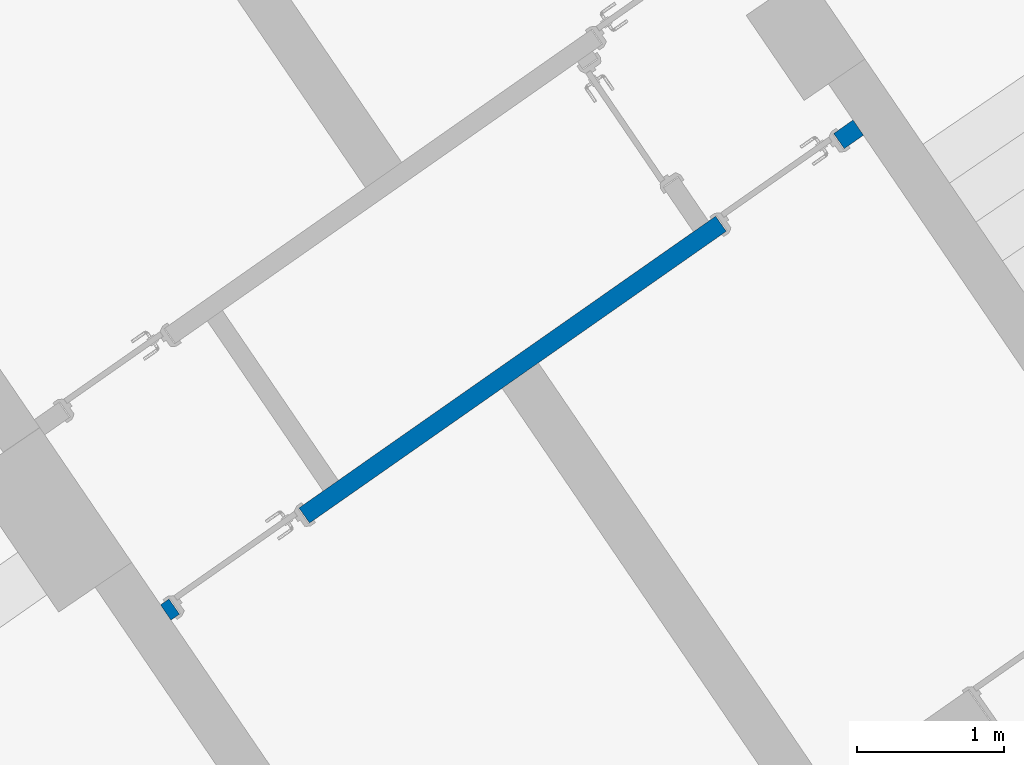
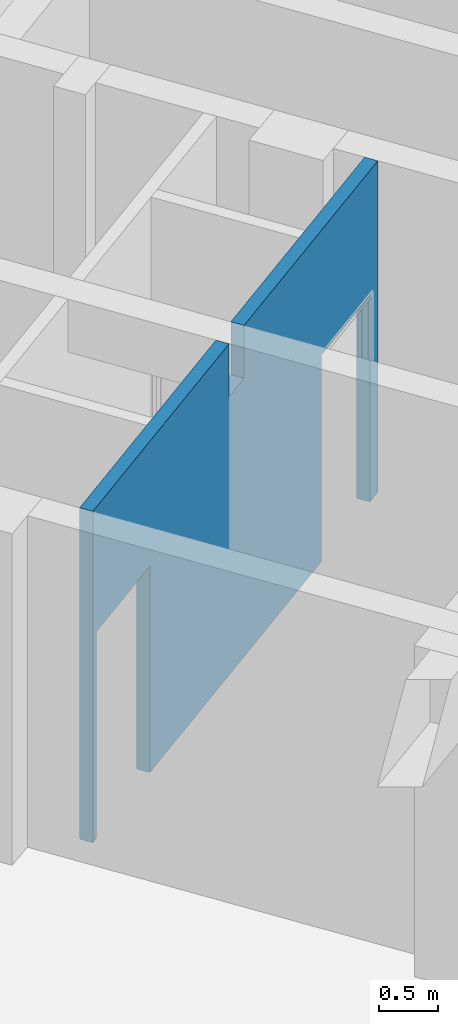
# One storey, part 100 of 112: 1 wall, 2 openings.
"""IFC2X3 building model written with IfcOpenShell, lengths in millimetres."""

import ifcopenshell
import ifcopenshell.guid

model = None  # the IFC model being written
_history = None  # IfcOwnerHistory: only IFC2X3 demands one
_inside = {}  # id of a spatial element -> (the spatial element, [elements in it])
_under = {}  # id of a project, library or spatial element -> (it, [spatial elements below it])
_declared = {}  # id of a project -> (the project, [libraries it declares])
_typed = {}  # id of a type object -> (the type object, [elements of that type])
_made_of = {}  # id of a material, layer set ... -> (it, [elements and type objects made of it])


def new_model(schema):
    """Start an empty IFC model of exactly this schema.

    Asked for "IFC4X3", IfcOpenShell would pick the latest addendum, in which some entities
    have other attributes; the version numbers below select the first issue.
    IFC2X3 requires an IfcOwnerHistory on every rooted entity: one is made here for all.
    """
    global model, _history
    if schema == "IFC4X3":
        model = ifcopenshell.file(schema_version=(4, 3, 0, 0))
    else:
        model = ifcopenshell.file(schema=schema)
    _inside.clear()
    _under.clear()
    _declared.clear()
    _typed.clear()
    _made_of.clear()
    _history = None
    if model.schema == "IFC2X3":
        org = make("IfcOrganization", Name="unknown")
        user = make(
            "IfcPersonAndOrganization",
            ThePerson=make("IfcPerson", FamilyName="unknown"),
            TheOrganization=org,
        )
        app = make(
            "IfcApplication",
            ApplicationDeveloper=org,
            Version="unknown",
            ApplicationFullName="unknown",
            ApplicationIdentifier="unknown",
        )
        _history = make(
            "IfcOwnerHistory",
            OwningUser=user,
            OwningApplication=app,
            ChangeAction="ADDED",
            CreationDate=0,
        )
    return model


def make(cls, **values):
    """One entity of the class cls with the attributes given. An attribute that is None is left unset."""
    return model.create_entity(
        cls, **{name: value for name, value in values.items() if value is not None}
    )


def entity(cls, *values):
    """Any entity or typed value of the class cls, its attributes in the order of the schema. None: left unset."""
    e = model.create_entity(cls)
    for i, value in enumerate(values):
        if value is not None:
            e[i] = value
    return e


def rooted(cls, **values):
    """An entity with a GlobalId (a new one), such as an element, a storey or a relation."""
    return make(cls, GlobalId=ifcopenshell.guid.new(), OwnerHistory=_history, **values)


def si_unit(unit_type, name, prefix=None):
    """IfcSIUnit, for example si_unit("LENGTHUNIT", "METRE", prefix="MILLI")."""
    return make("IfcSIUnit", UnitType=unit_type, Prefix=prefix, Name=name)


def converted_unit(unit_type, name, factor, base, dimensions=None, offset=None):
    """IfcConversionBasedUnit, such as the inch: factor (a typed value) times the base unit."""
    return make(
        "IfcConversionBasedUnit"
        if offset is None
        else "IfcConversionBasedUnitWithOffset",
        ConversionOffset=offset,
        Dimensions=None
        if dimensions is None
        else entity("IfcDimensionalExponents", *dimensions),
        UnitType=unit_type,
        Name=name,
        ConversionFactor=make(
            "IfcMeasureWithUnit", ValueComponent=factor, UnitComponent=base
        ),
    )


def derived_unit(unit_type, elements):
    """IfcDerivedUnit: a product of units, each with its exponent."""
    return make(
        "IfcDerivedUnit",
        Elements=[
            make("IfcDerivedUnitElement", Unit=unit, Exponent=power)
            for unit, power in elements
        ],
        UnitType=unit_type,
    )


def assignment(units):
    """IfcUnitAssignment: the units of a project."""
    return None if units is None else make("IfcUnitAssignment", Units=units)


def point(xyz):
    """IfcCartesianPoint."""
    return None if xyz is None else make("IfcCartesianPoint", Coordinates=xyz)


def direction(xyz):
    """IfcDirection."""
    return None if xyz is None else make("IfcDirection", DirectionRatios=xyz)


def frame(location, z_axis=None, x_axis=None):
    """IfcAxis2Placement3D, a coordinate frame: its origin and axes. An axis left out is left unset."""
    return make(
        "IfcAxis2Placement3D",
        Location=point(location),
        Axis=direction(z_axis),
        RefDirection=direction(x_axis),
    )


def frame_2d(location, x_axis=None):
    """IfcAxis2Placement2D, a coordinate frame in the plane: its origin and x axis."""
    return make(
        "IfcAxis2Placement2D", Location=point(location), RefDirection=direction(x_axis)
    )


def origin():
    """The frame at (0, 0, 0) with its axes left unset."""
    return frame((0.0, 0.0, 0.0))


def place(relative_to, where):
    """IfcLocalPlacement: puts the frame where relative to a parent placement (None: the world)."""
    return make(
        "IfcLocalPlacement", PlacementRelTo=relative_to, RelativePlacement=where
    )


def context(
    kind, dimensions, precision=None, world=None, true_north=None, identifier=None
):
    """IfcGeometricRepresentationContext, for example the 3D "Model" context."""
    return make(
        "IfcGeometricRepresentationContext",
        ContextIdentifier=identifier,
        ContextType=kind,
        CoordinateSpaceDimension=dimensions,
        Precision=precision,
        WorldCoordinateSystem=world,
        TrueNorth=true_north,
    )


def subcontext(parent, identifier, kind, view, scale=None):
    """IfcGeometricRepresentationSubContext, for example "Body" below "Model"."""
    return make(
        "IfcGeometricRepresentationSubContext",
        ContextIdentifier=identifier,
        ContextType=kind,
        ParentContext=parent,
        TargetScale=scale,
        TargetView=view,
    )


def project(units=None, contexts=None):
    """IfcProject with its units and contexts."""
    return rooted(
        "IfcProject",
        Name="project",
        RepresentationContexts=contexts,
        UnitsInContext=assignment(units),
    )


def spatial(cls, under=None, at=None, **own):
    """A site, building, storey or space (cls), placed at a placement, below another one or the project."""
    s = rooted(cls, ObjectPlacement=at, **own)
    if under is not None:
        _under.setdefault(under.id(), (under, []))[1].append(s)
    return s


def profile(cls, at=None, kind="AREA", **sizes):
    """A parametric profile (cls). Its sizes go by their IFC names, for example OverallWidth=200.0."""
    return make(cls, ProfileType=kind, Position=at, **sizes)


def rectangle(**sizes):
    """IfcRectangleProfileDef."""
    return profile("IfcRectangleProfileDef", **sizes)


def extrude(swept, where, along, depth):
    """IfcExtrudedAreaSolid: the profile swept, set in the frame where, extruded along a direction by depth."""
    return make(
        "IfcExtrudedAreaSolid",
        SweptArea=swept,
        Position=where,
        ExtrudedDirection=direction(along),
        Depth=depth,
    )


def faces_of(points, faces, orient=None, outer=None):
    """IfcFace entities. A face is a list of loops; a loop is a list of indices into points, from 0.

    orient and outer hold one flag for each loop. By default every Orientation is true, the
    first loop of a face is its IfcFaceOuterBound and the others are IfcFaceBound.
    """
    made = []
    for i, loops in enumerate(faces):
        bounds = []
        for j, loop in enumerate(loops):
            is_outer = j == 0 if outer is None else outer[i][j]
            bounds.append(
                make(
                    "IfcFaceOuterBound" if is_outer else "IfcFaceBound",
                    Bound=make("IfcPolyLoop", Polygon=[points[k] for k in loop]),
                    Orientation=True if orient is None else orient[i][j],
                )
            )
        made.append(make("IfcFace", Bounds=bounds))
    return made


def faceted_brep(points, faces, orient=None, outer=None, voids=None):
    """IfcFacetedBrep: a solid bounded by flat faces; with voids (closed shells), ...WithVoids."""
    shared = [point(p) for p in points]
    hull = make("IfcClosedShell", CfsFaces=faces_of(shared, faces, orient, outer))
    if voids is None:
        return make("IfcFacetedBrep", Outer=hull)
    return make(
        "IfcFacetedBrepWithVoids",
        Outer=hull,
        Voids=[
            make(cls, CfsFaces=faces_of(shared, fs, o, b)) for cls, fs, o, b in voids
        ],
    )


def shape(context_of_items, identifier, shape_type, items):
    """IfcShapeRepresentation: the items that make up one representation, for example the "Body"."""
    return make(
        "IfcShapeRepresentation",
        ContextOfItems=context_of_items,
        RepresentationIdentifier=identifier,
        RepresentationType=shape_type,
        Items=items,
    )


def material(Name=None, Category=None):
    """IfcMaterial."""
    return make("IfcMaterial", Name=Name, Category=Category)


def layer(
    of_material, thickness, ventilated=None, Name=None, Category=None, Priority=None
):
    """IfcMaterialLayer: one layer of a wall or slab, of a material (None: an air gap)."""
    return make(
        "IfcMaterialLayer",
        Material=of_material,
        LayerThickness=thickness,
        IsVentilated=ventilated,
        Name=Name,
        Category=Category,
        Priority=Priority,
    )


def layer_set(layers, Name=None):
    """IfcMaterialLayerSet."""
    return make("IfcMaterialLayerSet", MaterialLayers=layers, LayerSetName=Name)


def made_of(thing, what):
    """Note that an element or type object is made of a material, layer set ...; save() writes the relation."""
    if what is not None:
        _made_of.setdefault(what.id(), (what, []))[1].append(thing)
    return thing


def type_object(cls, material=None, **own):
    """A type object (cls), such as IfcWallType, which elements share."""
    return made_of(rooted(cls, **own), material)


def element(
    cls,
    number,
    at=None,
    inside=None,
    cuts=None,
    type_object=None,
    material=None,
    context=None,
    identifier="Body",
    shape_type=None,
    held_by="IfcProductDefinitionShape",
    body=None,
    shapes=None,
    **own,
):
    """One element of the class cls, such as IfcWall. Its Tag is "e" and its number.

    at: its placement. inside: the storey or other place that contains it. cuts: it is an
    opening in that element (IfcRelVoidsElement). A single representation is given by context,
    identifier, shape_type and body (its items); several are given by shapes. held_by: the class
    of the entity that holds the representations. save() writes the other relations.
    """
    e = rooted(cls, Tag="e%d" % number, ObjectPlacement=at, **own)
    if body is not None:
        shapes = [shape(context, identifier, shape_type, body)]
    if shapes is not None:
        e.Representation = make(held_by, Representations=shapes)
    if inside is not None:
        _inside.setdefault(inside.id(), (inside, []))[1].append(e)
    if cuts is not None:
        rooted(
            "IfcRelVoidsElement", RelatingBuildingElement=cuts, RelatedOpeningElement=e
        )
    if type_object is not None:
        _typed.setdefault(type_object.id(), (type_object, []))[1].append(e)
    return made_of(e, material)


def aggregate(whole, parts):
    """IfcRelAggregates: a whole, such as a stair, and the parts it consists of."""
    return rooted("IfcRelAggregates", RelatingObject=whole, RelatedObjects=parts)


def save(model, path):
    """Write the relations noted so far, then the file.

    IfcRelAggregates (storeys below a building ...), IfcRelContainedInSpatialStructure (elements
    in a storey), IfcRelDefinesByType, IfcRelAssociatesMaterial and IfcRelDeclares: one each for
    every whole, place, type object, material and project.
    """
    for whole, parts in _under.values():
        aggregate(whole, parts)
    for where, things in _inside.values():
        rooted(
            "IfcRelContainedInSpatialStructure",
            RelatedElements=things,
            RelatingStructure=where,
        )
    for kind, things in _typed.values():
        rooted("IfcRelDefinesByType", RelatedObjects=things, RelatingType=kind)
    for what, things in _made_of.values():
        rooted("IfcRelAssociatesMaterial", RelatedObjects=things, RelatingMaterial=what)
    for by, libraries in _declared.values():
        rooted("IfcRelDeclares", RelatingContext=by, RelatedDefinitions=libraries)
    model.write(path)


model = new_model("IFC2X3")

# Units and contexts
model_context = context("Model", 3, precision=0.01, world=origin(), true_north=direction((6.123031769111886e-17, 1.0)))
body_context = subcontext(model_context, "Body", "Model", "MODEL_VIEW")
ifc_project = project(units=[si_unit("LENGTHUNIT", "METRE", prefix="MILLI"), si_unit("AREAUNIT", "SQUARE_METRE"), si_unit("VOLUMEUNIT", "CUBIC_METRE"), converted_unit("PLANEANGLEUNIT", "DEGREE", entity("IfcRatioMeasure", 0.017453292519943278), si_unit("PLANEANGLEUNIT", "RADIAN"), dimensions=[0, 0, 0, 0, 0, 0, 0]), si_unit("MASSUNIT", "GRAM", prefix="KILO"), derived_unit("MASSDENSITYUNIT", [(si_unit("MASSUNIT", "GRAM", prefix="KILO"), 1), (si_unit("LENGTHUNIT", "METRE"), -3)]), derived_unit("MOMENTOFINERTIAUNIT", [(si_unit("LENGTHUNIT", "METRE"), 4)]), si_unit("TIMEUNIT", "SECOND"), si_unit("FREQUENCYUNIT", "HERTZ"), si_unit("THERMODYNAMICTEMPERATUREUNIT", "DEGREE_CELSIUS"), derived_unit("THERMALTRANSMITTANCEUNIT", [(si_unit("MASSUNIT", "GRAM", prefix="KILO"), 1), (si_unit("THERMODYNAMICTEMPERATUREUNIT", "KELVIN"), -1), (si_unit("TIMEUNIT", "SECOND"), -3)]), derived_unit("THERMALCONDUCTANCEUNIT", [(si_unit("MASSUNIT", "GRAM", prefix="KILO"), 1), (si_unit("LENGTHUNIT", "METRE"), 1), (si_unit("THERMODYNAMICTEMPERATUREUNIT", "KELVIN"), -1), (si_unit("TIMEUNIT", "SECOND"), -3)]), derived_unit("VOLUMETRICFLOWRATEUNIT", [(si_unit("LENGTHUNIT", "METRE"), 3), (si_unit("TIMEUNIT", "SECOND"), -1)]), derived_unit("MASSFLOWRATEUNIT", [(si_unit("MASSUNIT", "GRAM", prefix="KILO"), 1), (si_unit("TIMEUNIT", "SECOND"), -1)]), derived_unit("ROTATIONALFREQUENCYUNIT", [(si_unit("TIMEUNIT", "SECOND"), -1)]), si_unit("ELECTRICCURRENTUNIT", "AMPERE"), si_unit("ELECTRICVOLTAGEUNIT", "VOLT"), si_unit("POWERUNIT", "WATT"), converted_unit("FORCEUNIT", "KIP", entity("IfcRatioMeasure", 2.088543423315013e-05), si_unit("FORCEUNIT", "NEWTON"), dimensions=[1, 1, -2, 0, 0, 0, 0]), si_unit("ILLUMINANCEUNIT", "LUX"), si_unit("LUMINOUSFLUXUNIT", "LUMEN"), si_unit("LUMINOUSINTENSITYUNIT", "CANDELA"), derived_unit("USERDEFINED", [(si_unit("MASSUNIT", "GRAM", prefix="KILO"), -1), (si_unit("LENGTHUNIT", "METRE"), -2), (si_unit("TIMEUNIT", "SECOND"), 3), (si_unit("LUMINOUSFLUXUNIT", "LUMEN"), 1)]), derived_unit("USERDEFINED", [(si_unit("MASSUNIT", "GRAM", prefix="KILO"), 1), (si_unit("LENGTHUNIT", "METRE"), 3), (si_unit("TIMEUNIT", "SECOND"), -3), (si_unit("ELECTRICCURRENTUNIT", "AMPERE"), -2)]), derived_unit("USERDEFINED", [(si_unit("LENGTHUNIT", "METRE"), 2), (si_unit("TIMEUNIT", "SECOND"), -2)]), derived_unit("SOUNDPOWERUNIT", [(si_unit("MASSUNIT", "GRAM", prefix="KILO"), 1), (si_unit("LENGTHUNIT", "METRE"), 2), (si_unit("TIMEUNIT", "SECOND"), -3)]), derived_unit("SOUNDPRESSUREUNIT", [(si_unit("MASSUNIT", "GRAM", prefix="KILO"), 1), (si_unit("LENGTHUNIT", "METRE"), -1), (si_unit("TIMEUNIT", "SECOND"), -2)]), derived_unit("LINEARVELOCITYUNIT", [(si_unit("LENGTHUNIT", "METRE"), 1), (si_unit("TIMEUNIT", "SECOND"), -1)]), si_unit("PRESSUREUNIT", "PASCAL"), derived_unit("USERDEFINED", [(si_unit("LENGTHUNIT", "METRE"), -2), (si_unit("MASSUNIT", "GRAM", prefix="KILO"), 1), (si_unit("TIMEUNIT", "SECOND"), -2)]), derived_unit("LINEARFORCEUNIT", [(si_unit("MASSUNIT", "GRAM", prefix="KILO"), 1), (si_unit("LENGTHUNIT", "METRE"), 1), (si_unit("TIMEUNIT", "SECOND"), -2), (si_unit("LENGTHUNIT", "METRE"), -1)]), derived_unit("PLANARFORCEUNIT", [(si_unit("MASSUNIT", "GRAM", prefix="KILO"), 1), (si_unit("LENGTHUNIT", "METRE"), 1), (si_unit("TIMEUNIT", "SECOND"), -2), (si_unit("LENGTHUNIT", "METRE"), -2)]), derived_unit("SPECIFICHEATCAPACITYUNIT", [(si_unit("LENGTHUNIT", "METRE"), 2), (si_unit("TIMEUNIT", "SECOND"), -2), (si_unit("THERMODYNAMICTEMPERATUREUNIT", "KELVIN"), -1)]), derived_unit("VAPORPERMEABILITYUNIT", [(si_unit("TIMEUNIT", "SECOND"), 1), (si_unit("LENGTHUNIT", "METRE"), -1)]), derived_unit("DYNAMICVISCOSITYUNIT", [(si_unit("MASSUNIT", "GRAM", prefix="KILO"), 1), (si_unit("LENGTHUNIT", "METRE"), -1), (si_unit("TIMEUNIT", "SECOND"), -1)]), derived_unit("THERMALEXPANSIONCOEFFICIENTUNIT", [(si_unit("THERMODYNAMICTEMPERATUREUNIT", "KELVIN"), -1)])], contexts=[model_context])

# Site, building, storey
site_placement = place(None, frame((0.0, 0.0, 0.0), z_axis=(0.0, 0.0, 1.0), x_axis=(0.8191520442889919, 0.5735764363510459, 0.0)))
site = spatial("IfcSite", under=ifc_project, at=site_placement, Name="Default", CompositionType="ELEMENT")
building_placement = place(site_placement, origin())
building = spatial("IfcBuilding", under=site, at=building_placement, CompositionType="ELEMENT")
storey_placement = place(building_placement, frame((0.0, 0.0, -3600.0)))
storey = spatial("IfcBuildingStorey", under=building, at=storey_placement, Name="0.UG -3.60", CompositionType="ELEMENT", Elevation=-3600.0000000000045)

# Wall, openings
ifc_material = material(Name="Analytical Wall Surface_CJC")
ifc_layer = layer(ifc_material, 125.00000000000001)
ifc_layer_set = layer_set([ifc_layer], Name="Basic Wall:Wand_Innen_12.5")
wall_type = type_object("IfcWallType", Name="Basic Wall:Wand_Innen_12.5", PredefinedType="STANDARD", material=ifc_layer_set)
wall_placement = place(storey_placement, frame((-210434.3688072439, 167708.85891435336, 0.0), z_axis=(0.0, 0.0, 1.0), x_axis=(-1.0, 0.0, 0.0)))
wall = element("IfcWall", 1, at=wall_placement, inside=storey, type_object=wall_type, Name="Basic Wall:Wand_Innen_12.5", ObjectType="Basic Wall:Wand_Innen_12.5", context=body_context, shape_type="Brep", body=[
    faceted_brep([(0.0, -62.49999999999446, 3450.0), (0.0, -62.49999999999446, 0.0), (161.0017939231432, -62.49999999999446, 0.0), (161.0017939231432, -62.49999999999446, 2150.0), (1141.0017939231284, -62.49999999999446, 2150.0), (1141.0017939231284, -62.49999999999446, 0.0), (1200.0972372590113, -62.49999999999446, 0.0), (1325.1073661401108, -62.49999999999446, 0.0), (4274.572029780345, -62.49999999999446, 0.0), (4399.581636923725, -62.49999999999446, 0.0), (4601.001793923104, -62.49999999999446, 0.0), (4601.001793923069, -62.49999999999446, 2150.0), (5681.001793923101, -62.49999999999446, 2150.0), (5681.001793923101, -62.49999999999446, 0.0), (5750.4659285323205, -62.49999999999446, 0.0), (5750.4659285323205, -62.49999999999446, 3450.0), (4399.581636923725, -62.49999999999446, 3450.0), (4274.572029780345, -62.49999999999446, 3450.0), (3000.2309384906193, -62.49999999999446, 3450.0), (3000.2309384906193, -62.49999999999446, 2900.0), (2700.20662917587, -62.49999999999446, 2900.0), (2700.20662917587, -62.49999999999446, 3450.0), (1325.1073661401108, -62.49999999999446, 3450.0), (1200.0972372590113, -62.49999999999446, 3450.0), (1.5913273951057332, 62.49999999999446, 0.0), (1.5913273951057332, 62.49999999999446, 3450.0), (2701.797956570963, 62.49999999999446, 3450.0), (2701.797956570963, 62.49999999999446, 2900.0), (3001.8222658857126, 62.49999999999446, 2900.0), (3001.8222658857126, 62.49999999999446, 3450.0), (5752.057255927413, 62.49999999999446, 3450.0), (5752.057255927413, 62.49999999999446, 0.0), (5681.001793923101, 62.49999999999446, 0.0), (5681.001793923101, 62.49999999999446, 2150.0), (4601.001793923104, 62.49999999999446, 2150.0), (4601.001793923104, 62.49999999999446, 0.0), (3001.8222658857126, 62.49999999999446, 0.0), (2701.797956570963, 62.49999999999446, 0.0), (1141.0017939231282, 62.49999999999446, 0.0), (1141.0017939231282, 62.49999999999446, 2150.0), (161.00179392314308, 62.49999999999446, 2150.0), (161.00179392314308, 62.49999999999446, 0.0)], [[[0, 1, 2, 3, 4, 5, 6, 7, 8, 9, 10, 11, 12, 13, 14, 15, 16, 17, 18, 19, 20, 21, 22, 23]], [[24, 25, 26, 27, 28, 29, 30, 31, 32, 33, 34, 35, 36, 37, 38, 39, 40, 41]], [[1, 24, 41, 2]], [[15, 30, 29, 18, 17, 16]], [[1, 0, 25, 24]], [[15, 14, 31, 30]], [[20, 27, 26, 21]], [[28, 19, 18, 29]], [[4, 39, 38, 5]], [[39, 4, 3, 40]], [[40, 3, 2, 41]], [[27, 20, 19, 28]], [[12, 33, 32, 13]], [[33, 12, 11, 34]], [[34, 11, 10, 35]], [[25, 0, 23, 22, 21, 26]], [[5, 38, 37, 36, 35, 10, 9, 8, 7, 6]], [[31, 14, 13, 32]]]),
])
opening_1_placement = place(wall_placement, frame((1141.00179392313, 62.49999999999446, 0.0)))
element("IfcOpeningElement", 2, at=opening_1_placement, cuts=wall, Name="Doors_IntSgl:90x210:1", ObjectType="Opening", context=body_context, shape_type="SweptSolid", body=[
    extrude(rectangle(XDim=2150.000000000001, YDim=979.9999999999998, at=frame_2d((1075.0000000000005, 489.9999999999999), x_axis=(1.0, 0.0))), frame((0.0, 0.0, 0.0), z_axis=(0.0, -1.0, 0.0), x_axis=(0.0, 0.0, 1.0)), (0.0, 0.0, 1.0), 125.00000000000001),
])
opening_2_placement = place(wall_placement, frame((5681.00179392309, 62.49999999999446, 0.0)))
element("IfcOpeningElement", 3, at=opening_2_placement, cuts=wall, Name="Doors_IntSgl:100x210:1", ObjectType="Opening", context=body_context, shape_type="SweptSolid", body=[
    extrude(rectangle(XDim=2150.000000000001, YDim=1079.9999999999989, at=frame_2d((1075.0000000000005, 539.9999999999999), x_axis=(1.0, 0.0))), frame((0.0, 0.0, 0.0), z_axis=(0.0, -1.0, 0.0), x_axis=(0.0, 0.0, 1.0)), (0.0, 0.0, 1.0), 125.00000000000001),
])

save(model, "model.ifc")
